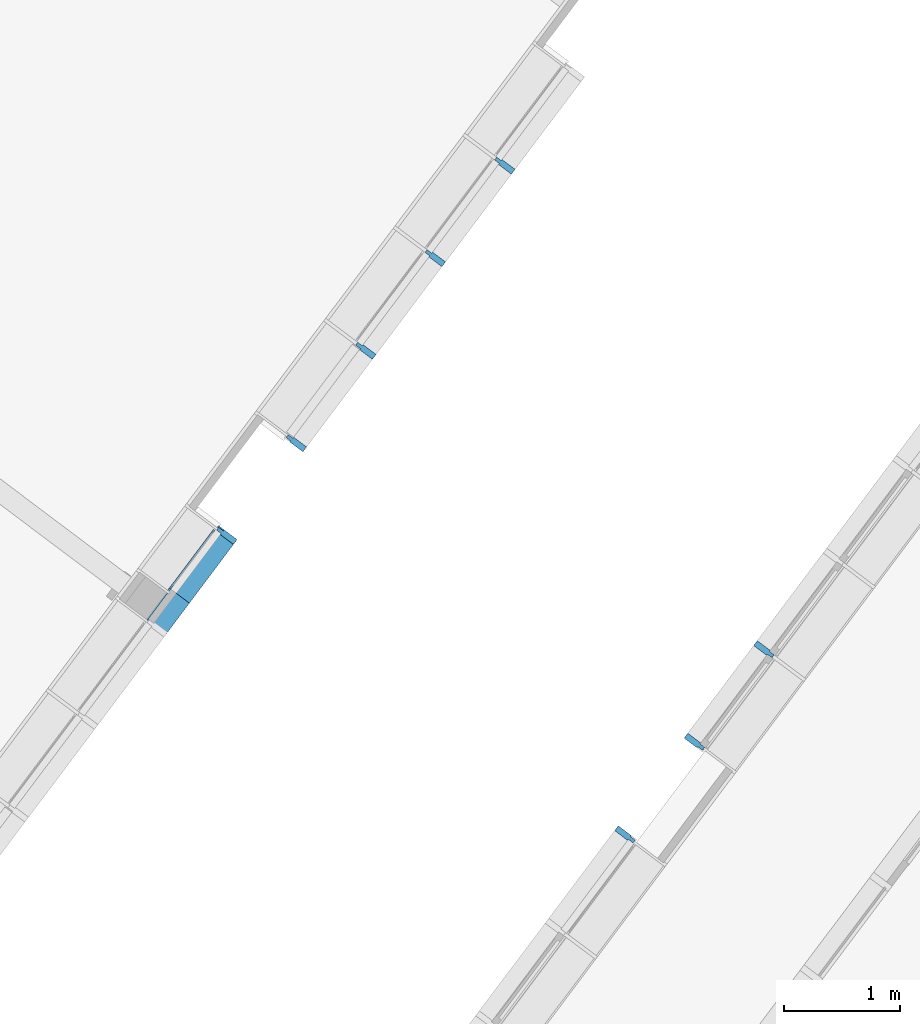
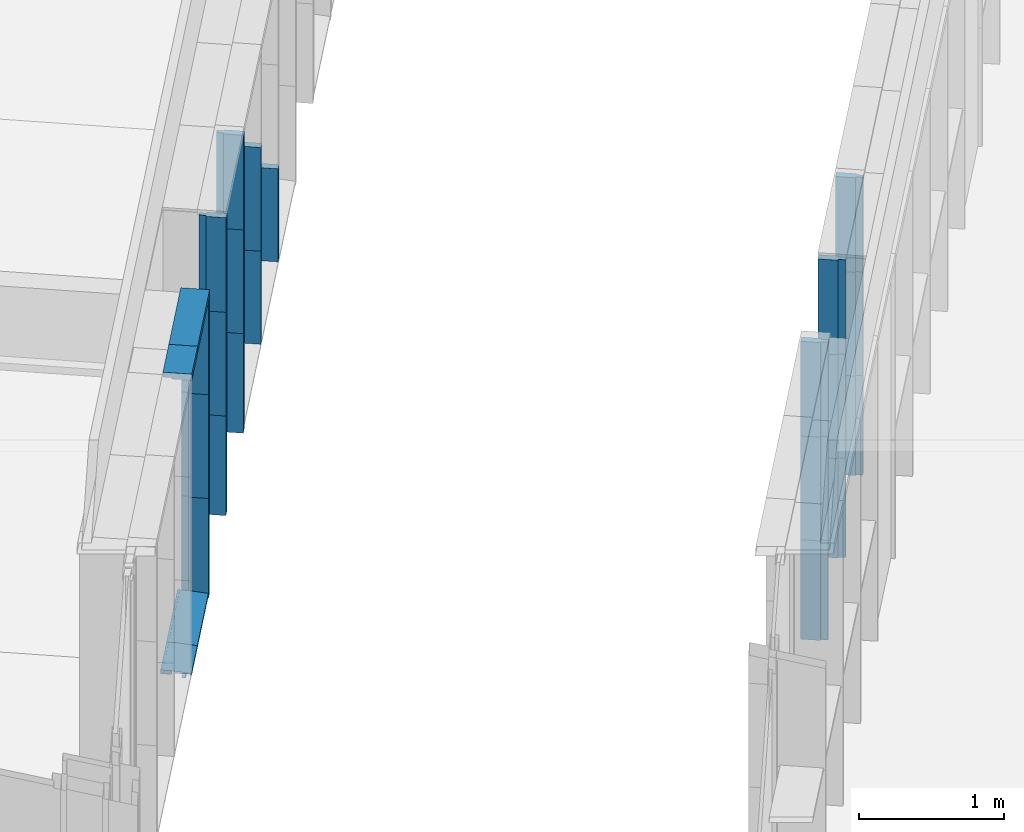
# One storey, part 95 of 243: 25 members, 2 elements without a shape of their own.
"""IFC2X3 building model written with IfcOpenShell, lengths in metres."""

from ifc_helpers import new_model, entity, si_unit, converted_unit, derived_unit, direction, frame, frame_2d, origin, place, context, subcontext, project, spatial, polyline, circle_curve, parameter, trimmed, segment, composite_curve, outline, extrude, source, transform, mapped, material, type_object, type_shapes, element, aggregate, save


model = new_model("IFC2X3")

# Units and contexts
model_context = context("Model", 3, precision=1e-05, world=origin(), true_north=direction((6.123031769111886e-17, 1.0)))
body_context = subcontext(model_context, "Body", "Model", "MODEL_VIEW")
ifc_project = project(units=[si_unit("LENGTHUNIT", "METRE"), si_unit("AREAUNIT", "SQUARE_METRE"), si_unit("VOLUMEUNIT", "CUBIC_METRE"), converted_unit("PLANEANGLEUNIT", "DEGREE", entity("IfcRatioMeasure", 0.017453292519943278), si_unit("PLANEANGLEUNIT", "RADIAN"), dimensions=[0, 0, 0, 0, 0, 0, 0]), si_unit("MASSUNIT", "GRAM", prefix="KILO"), derived_unit("MASSDENSITYUNIT", [(si_unit("MASSUNIT", "GRAM", prefix="KILO"), 1), (si_unit("LENGTHUNIT", "METRE"), -3)]), derived_unit("IONCONCENTRATIONUNIT", [(si_unit("MASSUNIT", "GRAM", prefix="KILO"), 1), (si_unit("LENGTHUNIT", "METRE"), -3)]), derived_unit("MOMENTOFINERTIAUNIT", [(si_unit("LENGTHUNIT", "METRE"), 4)]), si_unit("TIMEUNIT", "SECOND"), si_unit("FREQUENCYUNIT", "HERTZ"), si_unit("THERMODYNAMICTEMPERATUREUNIT", "DEGREE_CELSIUS"), derived_unit("THERMALTRANSMITTANCEUNIT", [(si_unit("MASSUNIT", "GRAM", prefix="KILO"), 1), (si_unit("THERMODYNAMICTEMPERATUREUNIT", "KELVIN"), -1), (si_unit("TIMEUNIT", "SECOND"), -3)]), derived_unit("THERMALCONDUCTANCEUNIT", [(si_unit("MASSUNIT", "GRAM", prefix="KILO"), 1), (si_unit("THERMODYNAMICTEMPERATUREUNIT", "KELVIN"), -1), (si_unit("TIMEUNIT", "SECOND"), -3), (si_unit("LENGTHUNIT", "METRE"), 1)]), derived_unit("VOLUMETRICFLOWRATEUNIT", [(si_unit("LENGTHUNIT", "METRE"), 3), (si_unit("TIMEUNIT", "SECOND"), -1)]), derived_unit("MASSFLOWRATEUNIT", [(si_unit("MASSUNIT", "GRAM", prefix="KILO"), 1), (si_unit("TIMEUNIT", "SECOND"), -1)]), derived_unit("ROTATIONALFREQUENCYUNIT", [(si_unit("TIMEUNIT", "SECOND"), -1)]), si_unit("ELECTRICCURRENTUNIT", "AMPERE"), si_unit("ELECTRICVOLTAGEUNIT", "VOLT"), si_unit("POWERUNIT", "WATT"), si_unit("FORCEUNIT", "NEWTON", prefix="KILO"), si_unit("ILLUMINANCEUNIT", "LUX"), si_unit("LUMINOUSFLUXUNIT", "LUMEN"), si_unit("LUMINOUSINTENSITYUNIT", "CANDELA"), derived_unit("USERDEFINED", [(si_unit("MASSUNIT", "GRAM", prefix="KILO"), -1), (si_unit("LENGTHUNIT", "METRE"), -2), (si_unit("TIMEUNIT", "SECOND"), 3), (si_unit("LUMINOUSFLUXUNIT", "LUMEN"), 1)]), derived_unit("USERDEFINED", [(si_unit("MASSUNIT", "GRAM", prefix="KILO"), 1), (si_unit("TIMEUNIT", "SECOND"), -3), (si_unit("LENGTHUNIT", "METRE"), 3), (si_unit("ELECTRICCURRENTUNIT", "AMPERE"), -2)]), derived_unit("SOUNDPOWERUNIT", [(si_unit("MASSUNIT", "GRAM", prefix="KILO"), 1), (si_unit("TIMEUNIT", "SECOND"), -3), (si_unit("LENGTHUNIT", "METRE"), 2)]), derived_unit("SOUNDPRESSUREUNIT", [(si_unit("MASSUNIT", "GRAM", prefix="KILO"), 1), (si_unit("LENGTHUNIT", "METRE"), -1), (si_unit("TIMEUNIT", "SECOND"), -2)]), derived_unit("LINEARVELOCITYUNIT", [(si_unit("LENGTHUNIT", "METRE"), 1), (si_unit("TIMEUNIT", "SECOND"), -1)]), si_unit("PRESSUREUNIT", "PASCAL"), derived_unit("USERDEFINED", [(si_unit("MASSUNIT", "GRAM", prefix="KILO"), 1), (si_unit("LENGTHUNIT", "METRE"), -2), (si_unit("TIMEUNIT", "SECOND"), -2)]), derived_unit("LINEARFORCEUNIT", [(si_unit("MASSUNIT", "GRAM", prefix="KILO"), 1), (si_unit("TIMEUNIT", "SECOND"), -2)]), derived_unit("PLANARFORCEUNIT", [(si_unit("MASSUNIT", "GRAM", prefix="KILO"), 1), (si_unit("LENGTHUNIT", "METRE"), -1), (si_unit("TIMEUNIT", "SECOND"), -2)]), derived_unit("SPECIFICHEATCAPACITYUNIT", [(si_unit("THERMODYNAMICTEMPERATUREUNIT", "KELVIN"), -1), (si_unit("LENGTHUNIT", "METRE"), 2), (si_unit("TIMEUNIT", "SECOND"), -2)]), derived_unit("HEATINGVALUEUNIT", [(si_unit("LENGTHUNIT", "METRE"), 2), (si_unit("TIMEUNIT", "SECOND"), -2)]), derived_unit("VAPORPERMEABILITYUNIT", [(si_unit("LENGTHUNIT", "METRE"), -1), (si_unit("TIMEUNIT", "SECOND"), 1)]), derived_unit("DYNAMICVISCOSITYUNIT", [(si_unit("MASSUNIT", "GRAM", prefix="KILO"), 1), (si_unit("TIMEUNIT", "SECOND"), -1), (si_unit("LENGTHUNIT", "METRE"), -1)]), derived_unit("THERMALEXPANSIONCOEFFICIENTUNIT", [(si_unit("THERMODYNAMICTEMPERATUREUNIT", "KELVIN"), -1)]), derived_unit("MODULUSOFELASTICITYUNIT", [(si_unit("MASSUNIT", "GRAM", prefix="KILO"), 1), (si_unit("LENGTHUNIT", "METRE"), -1), (si_unit("TIMEUNIT", "SECOND"), -2)]), derived_unit("ISOTHERMALMOISTURECAPACITYUNIT", [(si_unit("LENGTHUNIT", "METRE"), 3), (si_unit("MASSUNIT", "GRAM", prefix="KILO"), -1)]), derived_unit("MOISTUREDIFFUSIVITYUNIT", [(si_unit("TIMEUNIT", "SECOND"), -1), (si_unit("LENGTHUNIT", "METRE"), 2)])], contexts=[model_context])

# Site, building, storey
site_placement = place(None, frame((0.0, 0.0, 235.0), z_axis=(0.0, 0.0, 1.0), x_axis=(-0.7996477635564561, 0.6004693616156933, 0.0)))
site = spatial("IfcSite", under=ifc_project, at=site_placement, Name="Default", CompositionType="ELEMENT")
building_placement = place(site_placement, origin())
building = spatial("IfcBuilding", under=site, at=building_placement, CompositionType="ELEMENT")
storey_placement = place(building_placement, origin())
storey = spatial("IfcBuildingStorey", under=building, at=storey_placement, Name="P0- Escola", CompositionType="ELEMENT", Elevation=0.0)

# Curtain wall, members
curtain_wall_type_1 = type_object("IfcCurtainWallType", Name="Muro cortina:MC- EXT- MC2", PredefinedType="NOTDEFINED")
curtain_wall_1_placement = place(storey_placement, origin())
curtain_wall_1 = element("IfcCurtainWall", 1, at=curtain_wall_1_placement, inside=storey, type_object=curtain_wall_type_1, Name="Muro cortina:MC- EXT- MC2", ObjectType="Muro cortina:MC- EXT- MC2")
ifc_material = material(Name="_Alumini- T1- Perfil")
member_type_1 = type_object("IfcMemberType", Name="Montante rectangular:MC- Alu- 140x52,5 cm- Fa patis- Centre", PredefinedType="MULLION", material=ifc_material)
shared_shape_1 = source(origin(), body_context, "Body", "SweptSolid", [
    extrude(outline(polyline([(-0.11699999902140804, -0.026250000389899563), (0.021999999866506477, -0.026250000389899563), (0.021999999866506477, -0.01500000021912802), (0.07299999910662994, -0.01500000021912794), (0.07299999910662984, 0.015000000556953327), (0.02200000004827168, 0.015000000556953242), (0.02200000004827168, 0.026250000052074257), (-0.11699999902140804, 0.026250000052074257), (-0.11699999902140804, -0.026250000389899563)])), frame((0.0, 0.022999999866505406, -0.8400000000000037), z_axis=(0.0, 0.0, 1.0), x_axis=(0.0, -1.0, 0.0)), (0.0, 0.0, 1.0), 0.8400000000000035),
])
type_shapes(member_type_1, [shared_shape_1])
member_1_placement = place(curtain_wall_1_placement, frame((53.74514768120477, -24.41519175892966, -0.02), z_axis=(0.0, 0.0, -1.0), x_axis=(0.0, -1.0, 0.0)))
member_1 = element("IfcMember", 2, at=member_1_placement, type_object=member_type_1, material=ifc_material, Name="Montante rectangular:MC- Alu- 140x52,5 cm- Fa patis- Centre", ObjectType="Montante rectangular:MC- Alu- 140x52,5 cm- Fa patis- Centre", context=body_context, shape_type="MappedRepresentation", body=[
    mapped(shared_shape_1, transform((0.0, 0.0, 0.0), scale=1.0)),
])
member_2_placement = place(curtain_wall_1_placement, frame((53.74514768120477, -26.415191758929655, -0.02), z_axis=(0.0, 0.0, -1.0), x_axis=(0.0, -1.0, 0.0)))
member_2 = element("IfcMember", 3, at=member_2_placement, type_object=member_type_1, material=ifc_material, Name="Montante rectangular:MC- Alu- 140x52,5 cm- Fa patis- Centre", ObjectType="Montante rectangular:MC- Alu- 140x52,5 cm- Fa patis- Centre", context=body_context, shape_type="MappedRepresentation", body=[
    mapped(shared_shape_1, transform((0.0, 0.0, 0.0), scale=1.0)),
])
member_3_placement = place(curtain_wall_1_placement, frame((53.74514768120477, -25.415191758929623, -0.02), z_axis=(0.0, 0.0, -1.0), x_axis=(0.0, -1.0, 0.0)))
member_3 = element("IfcMember", 4, at=member_3_placement, type_object=member_type_1, material=ifc_material, Name="Montante rectangular:MC- Alu- 140x52,5 cm- Fa patis- Centre", ObjectType="Montante rectangular:MC- Alu- 140x52,5 cm- Fa patis- Centre", context=body_context, shape_type="MappedRepresentation", body=[
    mapped(shared_shape_1, transform((0.0, 0.0, 0.0), scale=1.0)),
])
member_type_2 = type_object("IfcMemberType", Name="Montante rectangular:MC- Alu- 140x52,5 cm- Fa patis- Centre", PredefinedType="MULLION", material=ifc_material)
shared_shape_2 = source(origin(), body_context, "Body", "SweptSolid", [
    extrude(outline(polyline([(-0.11699999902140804, -0.026250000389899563), (0.021999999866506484, -0.026250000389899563), (0.021999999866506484, -0.01500000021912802), (0.07299999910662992, -0.01500000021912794), (0.07299999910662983, 0.015000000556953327), (0.022000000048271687, 0.015000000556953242), (0.022000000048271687, 0.026250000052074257), (-0.11699999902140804, 0.026250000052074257), (-0.11699999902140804, -0.026250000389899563)])), frame((0.0, 0.022999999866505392, -0.7850000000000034), z_axis=(0.0, 0.0, 1.0), x_axis=(0.0, -1.0, 0.0)), (0.0, 0.0, 1.0), 0.7850000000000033),
])
type_shapes(member_type_2, [shared_shape_2])
member_4_placement = place(curtain_wall_1_placement, frame((53.74514768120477, -27.41519175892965, 0.035000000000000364), z_axis=(0.0, 0.0, -1.0), x_axis=(0.0, -1.0, 0.0)))
member_4 = element("IfcMember", 5, at=member_4_placement, type_object=member_type_2, material=ifc_material, Name="Montante rectangular:MC- Alu- 140x52,5 cm- Fa patis- Centre", ObjectType="Montante rectangular:MC- Alu- 140x52,5 cm- Fa patis- Centre", context=body_context, shape_type="MappedRepresentation", body=[
    mapped(shared_shape_2, transform((0.0, 0.0, 0.0), scale=1.0)),
])
member_5_placement = place(curtain_wall_1_placement, frame((53.74514768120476, -28.415191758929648, 0.035000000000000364), z_axis=(0.0, 0.0, -1.0), x_axis=(0.0, -1.0, 0.0)))
member_5 = element("IfcMember", 6, at=member_5_placement, type_object=member_type_2, material=ifc_material, Name="Montante rectangular:MC- Alu- 140x52,5 cm- Fa patis- Centre", ObjectType="Montante rectangular:MC- Alu- 140x52,5 cm- Fa patis- Centre", context=body_context, shape_type="MappedRepresentation", body=[
    mapped(shared_shape_2, transform((0.0, 0.0, 0.0), scale=1.0)),
])
member_type_3 = type_object("IfcMemberType", Name="Montante rectangular:MC- Alu- 140x52,5 cm- Fa patis- Centre", PredefinedType="MULLION", material=ifc_material)
shared_shape_3 = source(origin(), body_context, "Body", "SweptSolid", [
    extrude(outline(polyline([(-0.11699999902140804, -0.026250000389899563), (0.021999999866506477, -0.026250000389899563), (0.021999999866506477, -0.01500000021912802), (0.07299999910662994, -0.01500000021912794), (0.07299999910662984, 0.015000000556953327), (0.02200000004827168, 0.015000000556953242), (0.02200000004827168, 0.026250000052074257), (-0.11699999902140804, 0.026250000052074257), (-0.11699999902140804, -0.026250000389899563)])), frame((0.0, 0.022999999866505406, -0.8750000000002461), z_axis=(0.0, 0.0, 1.0), x_axis=(0.0, -1.0, 0.0)), (0.0, 0.0, 1.0), 0.8750000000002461),
])
type_shapes(member_type_3, [shared_shape_3])
member_6_placement = place(curtain_wall_1_placement, frame((53.74514768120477, -24.41519175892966, 0.8200000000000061), z_axis=(0.0, 0.0, -1.0), x_axis=(0.0, -1.0, 0.0)))
member_6 = element("IfcMember", 7, at=member_6_placement, type_object=member_type_3, material=ifc_material, Name="Montante rectangular:MC- Alu- 140x52,5 cm- Fa patis- Centre", ObjectType="Montante rectangular:MC- Alu- 140x52,5 cm- Fa patis- Centre", context=body_context, shape_type="MappedRepresentation", body=[
    mapped(shared_shape_3, transform((0.0, 0.0, 0.0), scale=1.0)),
])
member_7_placement = place(curtain_wall_1_placement, frame((53.74514768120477, -25.415191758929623, 0.8200000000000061), z_axis=(0.0, 0.0, -1.0), x_axis=(0.0, -1.0, 0.0)))
member_7 = element("IfcMember", 8, at=member_7_placement, type_object=member_type_3, material=ifc_material, Name="Montante rectangular:MC- Alu- 140x52,5 cm- Fa patis- Centre", ObjectType="Montante rectangular:MC- Alu- 140x52,5 cm- Fa patis- Centre", context=body_context, shape_type="MappedRepresentation", body=[
    mapped(shared_shape_3, transform((0.0, 0.0, 0.0), scale=1.0)),
])
member_8_placement = place(curtain_wall_1_placement, frame((53.74514768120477, -26.415191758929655, 0.8200000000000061), z_axis=(0.0, 0.0, -1.0), x_axis=(0.0, -1.0, 0.0)))
member_8 = element("IfcMember", 9, at=member_8_placement, type_object=member_type_3, material=ifc_material, Name="Montante rectangular:MC- Alu- 140x52,5 cm- Fa patis- Centre", ObjectType="Montante rectangular:MC- Alu- 140x52,5 cm- Fa patis- Centre", context=body_context, shape_type="MappedRepresentation", body=[
    mapped(shared_shape_3, transform((0.0, 0.0, 0.0), scale=1.0)),
])
member_9_placement = place(curtain_wall_1_placement, frame((53.74514768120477, -27.41519175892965, 0.8200000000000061), z_axis=(0.0, 0.0, -1.0), x_axis=(0.0, -1.0, 0.0)))
member_9 = element("IfcMember", 10, at=member_9_placement, type_object=member_type_3, material=ifc_material, Name="Montante rectangular:MC- Alu- 140x52,5 cm- Fa patis- Centre", ObjectType="Montante rectangular:MC- Alu- 140x52,5 cm- Fa patis- Centre", context=body_context, shape_type="MappedRepresentation", body=[
    mapped(shared_shape_3, transform((0.0, 0.0, 0.0), scale=1.0)),
])
member_type_4 = type_object("IfcMemberType", Name="Montante rectangular:MC- Alu- 140x52,5 cm- Fa patis- inferior", PredefinedType="MULLION", material=ifc_material)
shared_shape_4 = source(origin(), body_context, "Body", "SweptSolid", [
    extrude(outline(composite_curve([segment(polyline([(0.1278672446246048, -0.025867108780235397), (0.14416724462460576, -0.0258671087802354)]), True, "CONTINUOUS"), segment(polyline([(0.14416724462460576, -0.0258671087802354), (0.1441672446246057, 0.009132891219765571)]), True, "CONTINUOUS"), segment(polyline([(0.1441672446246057, 0.009132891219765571), (0.06786724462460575, 0.009132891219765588)]), True, "CONTINUOUS"), segment(polyline([(0.06786724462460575, 0.009132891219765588), (0.06786724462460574, -0.021159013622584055)]), True, "CONTINUOUS"), segment(polyline([(0.06786724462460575, -0.021159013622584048), (-0.030132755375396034, -0.012332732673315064)]), True, "CONTINUOUS"), segment(polyline([(-0.03013275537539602, -0.012332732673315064), (-0.030132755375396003, 0.027132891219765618)]), True, "CONTINUOUS"), segment(polyline([(-0.030132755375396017, 0.027132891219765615), (-0.0021327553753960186, 0.027132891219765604)]), True, "CONTINUOUS"), segment(polyline([(-0.0021327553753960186, 0.027132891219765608), (-0.0021327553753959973, 0.0291328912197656)]), True, "CONTINUOUS"), segment(polyline([(-0.0021327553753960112, 0.0291328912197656), (-0.032132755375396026, 0.02913289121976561)]), True, "CONTINUOUS"), segment(polyline([(-0.032132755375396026, 0.02913289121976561), (-0.03213275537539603, -0.012152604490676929)]), True, "CONTINUOUS"), segment(polyline([(-0.03213275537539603, -0.012152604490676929), (-0.0701327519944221, -0.008730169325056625)]), True, "CONTINUOUS"), segment(polyline([(-0.0701327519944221, -0.008730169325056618), (-0.0701327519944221, 0.0057663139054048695)]), True, "CONTINUOUS"), segment(trimmed(circle_curve(frame_2d((-0.0696327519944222, 0.005766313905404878), x_axis=(-1.0, 0.0)), 0.0004999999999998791), [parameter(269.999999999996)], [parameter(0.0)], True, "PARAMETER"), False, "CONTINUOUS"), segment(polyline([(-0.0696327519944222, 0.006266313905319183), (-0.06213275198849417, 0.00626631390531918)]), True, "CONTINUOUS"), segment(polyline([(-0.06213275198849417, 0.00626631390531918), (-0.06213275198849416, 0.008266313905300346)]), True, "CONTINUOUS"), segment(polyline([(-0.06213275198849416, 0.008266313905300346), (-0.07013275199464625, 0.008266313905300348)]), True, "CONTINUOUS"), segment(trimmed(circle_curve(frame_2d((-0.07013275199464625, 0.0062663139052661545), x_axis=(0.0, 1.0)), 0.0020000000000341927), [parameter(0.0)], [parameter(90.00000002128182)], True, "PARAMETER"), True, "CONTINUOUS"), segment(polyline([(-0.07213275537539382, 0.006266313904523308), (-0.07213275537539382, -0.008730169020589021)]), True, "CONTINUOUS"), segment(trimmed(circle_curve(frame_2d((-0.07013275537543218, -0.008730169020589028), x_axis=(-1.0, 0.0)), 0.001999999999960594), [parameter(0.0)], [parameter(84.85359280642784)], True, "PARAMETER"), True, "CONTINUOUS"), segment(polyline([(-0.07031215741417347, -0.010722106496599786), (0.06786724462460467, -0.02316710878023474)]), True, "CONTINUOUS"), segment(polyline([(0.06786724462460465, -0.023167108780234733), (0.12786724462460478, -0.02316710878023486)]), True, "CONTINUOUS"), segment(polyline([(0.12786724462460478, -0.02316710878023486), (0.1278672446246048, -0.025867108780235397)]), True, "CONTINUOUS")], self_intersect=False)), frame((-0.02913289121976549, 0.06786724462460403, -0.3391263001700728), z_axis=(0.0, 0.0, 1.0), x_axis=(0.0, -1.0, 0.0)), (0.0, 0.0, 1.0), 0.3391263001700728),
])
type_shapes(member_type_4, [shared_shape_4])
member_10_placement = place(curtain_wall_1_placement, frame((53.74514768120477, -23.41519175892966, -0.02), z_axis=(0.0, 1.0, 0.0), x_axis=(0.0, 0.0, -1.0)))
member_10 = element("IfcMember", 11, at=member_10_placement, type_object=member_type_4, material=ifc_material, Name="Montante rectangular:MC- Alu- 140x52,5 cm- Fa patis- inferior", ObjectType="Montante rectangular:MC- Alu- 140x52,5 cm- Fa patis- inferior", context=body_context, shape_type="MappedRepresentation", body=[
    mapped(shared_shape_4, transform((0.0, 0.0, 0.0), scale=1.0)),
])
member_type_5 = type_object("IfcMemberType", Name="Montante rectangular:MC- Alu- 140x52,5 cm- Fa patis- Superior", PredefinedType="MULLION", material=ifc_material)
shared_shape_5 = source(origin(), body_context, "Body", "SweptSolid", [
    extrude(outline(polyline([(-0.11366666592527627, -0.021249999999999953), (0.02633333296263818, -0.021249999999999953), (0.02633333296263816, -0.010000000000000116), (0.08733333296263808, -0.010000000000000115), (0.08733333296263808, 0.03125000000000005), (-0.11366666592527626, 0.031250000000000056), (-0.11366666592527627, -0.021249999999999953)])), frame((-0.031250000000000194, 0.027333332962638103, -0.6871237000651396), z_axis=(0.0, 0.0, 1.0), x_axis=(0.0, -1.0, 0.0)), (0.0, 0.0, 1.0), 0.6871237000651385),
])
type_shapes(member_type_5, [shared_shape_5])
member_11_placement = place(curtain_wall_1_placement, frame((53.74514768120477, -24.441441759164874, 2.545), z_axis=(0.0, -1.0, 0.0), x_axis=(0.0, 0.0, 1.0)))
member_11 = element("IfcMember", 12, at=member_11_placement, type_object=member_type_5, material=ifc_material, Name="Montante rectangular:MC- Alu- 140x52,5 cm- Fa patis- Superior", ObjectType="Montante rectangular:MC- Alu- 140x52,5 cm- Fa patis- Superior", context=body_context, shape_type="MappedRepresentation", body=[
    mapped(shared_shape_5, transform((0.0, 0.0, 0.0), scale=1.0)),
])
member_type_6 = type_object("IfcMemberType", Name="Montante rectangular:MC- Alu- 140x52,5 cm- Fa patis- Superior", PredefinedType="MULLION", material=ifc_material)
shared_shape_6 = source(origin(), body_context, "Body", "SweptSolid", [
    extrude(outline(polyline([(-0.11366666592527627, -0.021249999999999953), (0.02633333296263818, -0.021249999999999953), (0.02633333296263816, -0.010000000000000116), (0.08733333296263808, -0.010000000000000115), (0.08733333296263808, 0.03125000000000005), (-0.11366666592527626, 0.031250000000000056), (-0.11366666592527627, -0.021249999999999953)])), frame((-0.031250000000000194, 0.027333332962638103, -0.3391263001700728), z_axis=(0.0, 0.0, 1.0), x_axis=(0.0, -1.0, 0.0)), (0.0, 0.0, 1.0), 0.3391263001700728),
])
type_shapes(member_type_6, [shared_shape_6])
member_12_placement = place(curtain_wall_1_placement, frame((53.74514768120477, -23.754318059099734, 2.545), z_axis=(0.0, -1.0, 0.0), x_axis=(0.0, 0.0, 1.0)))
member_12 = element("IfcMember", 13, at=member_12_placement, type_object=member_type_6, material=ifc_material, Name="Montante rectangular:MC- Alu- 140x52,5 cm- Fa patis- Superior", ObjectType="Montante rectangular:MC- Alu- 140x52,5 cm- Fa patis- Superior", context=body_context, shape_type="MappedRepresentation", body=[
    mapped(shared_shape_6, transform((0.0, 0.0, 0.0), scale=1.0)),
])
member_type_7 = type_object("IfcMemberType", Name="Montante rectangular:MC- Alu- 140x52,5 cm- Fa patis- inferior", PredefinedType="MULLION", material=ifc_material)
shared_shape_7 = source(origin(), body_context, "Body", "SweptSolid", [
    extrude(outline(composite_curve([segment(polyline([(0.1278672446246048, -0.02586710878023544), (0.14416724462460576, -0.025867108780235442)]), True, "CONTINUOUS"), segment(polyline([(0.14416724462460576, -0.025867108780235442), (0.1441672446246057, 0.00913289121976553)]), True, "CONTINUOUS"), segment(polyline([(0.1441672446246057, 0.00913289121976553), (0.06786724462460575, 0.009132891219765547)]), True, "CONTINUOUS"), segment(polyline([(0.06786724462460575, 0.009132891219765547), (0.06786724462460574, -0.021159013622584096)]), True, "CONTINUOUS"), segment(polyline([(0.06786724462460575, -0.02115901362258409), (-0.030132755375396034, -0.012332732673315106)]), True, "CONTINUOUS"), segment(polyline([(-0.03013275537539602, -0.012332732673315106), (-0.030132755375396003, 0.027132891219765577)]), True, "CONTINUOUS"), segment(polyline([(-0.030132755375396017, 0.027132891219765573), (-0.0021327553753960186, 0.027132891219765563)]), True, "CONTINUOUS"), segment(polyline([(-0.0021327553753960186, 0.027132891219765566), (-0.0021327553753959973, 0.029132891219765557)]), True, "CONTINUOUS"), segment(polyline([(-0.0021327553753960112, 0.029132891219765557), (-0.032132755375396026, 0.029132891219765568)]), True, "CONTINUOUS"), segment(polyline([(-0.032132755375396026, 0.029132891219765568), (-0.03213275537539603, -0.01215260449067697)]), True, "CONTINUOUS"), segment(polyline([(-0.03213275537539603, -0.01215260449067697), (-0.0701327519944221, -0.008730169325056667)]), True, "CONTINUOUS"), segment(polyline([(-0.0701327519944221, -0.00873016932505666), (-0.0701327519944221, 0.005766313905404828)]), True, "CONTINUOUS"), segment(trimmed(circle_curve(frame_2d((-0.0696327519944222, 0.0057663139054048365), x_axis=(-1.0, 0.0)), 0.0004999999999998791), [parameter(269.999999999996)], [parameter(0.0)], True, "PARAMETER"), False, "CONTINUOUS"), segment(polyline([(-0.0696327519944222, 0.006266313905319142), (-0.06213275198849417, 0.006266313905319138)]), True, "CONTINUOUS"), segment(polyline([(-0.06213275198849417, 0.006266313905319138), (-0.06213275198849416, 0.008266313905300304)]), True, "CONTINUOUS"), segment(polyline([(-0.06213275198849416, 0.008266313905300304), (-0.07013275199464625, 0.008266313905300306)]), True, "CONTINUOUS"), segment(trimmed(circle_curve(frame_2d((-0.07013275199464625, 0.006266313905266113), x_axis=(0.0, 1.0)), 0.0020000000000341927), [parameter(0.0)], [parameter(90.00000002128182)], True, "PARAMETER"), True, "CONTINUOUS"), segment(polyline([(-0.07213275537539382, 0.006266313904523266), (-0.07213275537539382, -0.008730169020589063)]), True, "CONTINUOUS"), segment(trimmed(circle_curve(frame_2d((-0.07013275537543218, -0.008730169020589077), x_axis=(-1.0, 0.0)), 0.001999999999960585), [parameter(0.0)], [parameter(84.85359280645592)], True, "PARAMETER"), True, "CONTINUOUS"), segment(polyline([(-0.07031215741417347, -0.010722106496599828), (0.06786724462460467, -0.023167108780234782)]), True, "CONTINUOUS"), segment(polyline([(0.06786724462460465, -0.023167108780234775), (0.12786724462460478, -0.023167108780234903)]), True, "CONTINUOUS"), segment(polyline([(0.12786724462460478, -0.023167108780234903), (0.1278672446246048, -0.02586710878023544)]), True, "CONTINUOUS")], self_intersect=False)), frame((-0.02913289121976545, 0.06786724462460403, -0.6346236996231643), z_axis=(0.0, 0.0, 1.0), x_axis=(0.0, -1.0, 0.0)), (0.0, 0.0, 1.0), 0.6346236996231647),
])
type_shapes(member_type_7, [shared_shape_7])
member_13_placement = place(curtain_wall_1_placement, frame((53.74514768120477, -23.754318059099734, -0.02), z_axis=(0.0, 1.0, 0.0), x_axis=(0.0, 0.0, -1.0)))
member_13 = element("IfcMember", 14, at=member_13_placement, type_object=member_type_7, material=ifc_material, Name="Montante rectangular:MC- Alu- 140x52,5 cm- Fa patis- inferior", ObjectType="Montante rectangular:MC- Alu- 140x52,5 cm- Fa patis- inferior", context=body_context, shape_type="MappedRepresentation", body=[
    mapped(shared_shape_7, transform((0.0, 0.0, 0.0), scale=1.0)),
])
member_type_8 = type_object("IfcMemberType", Name="Montante rectangular:MC- Alu- 140x52,5 cm- Fa patis- Centre", PredefinedType="MULLION", material=ifc_material)
shared_shape_8 = source(origin(), body_context, "Body", "SweptSolid", [
    extrude(outline(polyline([(-0.11699999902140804, -0.026250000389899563), (0.021999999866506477, -0.026250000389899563), (0.021999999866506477, -0.01500000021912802), (0.07299999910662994, -0.01500000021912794), (0.07299999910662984, 0.015000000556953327), (0.02200000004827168, 0.015000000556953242), (0.02200000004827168, 0.026250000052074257), (-0.11699999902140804, 0.026250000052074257), (-0.11699999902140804, -0.026250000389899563)])), frame((0.0, 0.022999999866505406, -0.79749999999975), z_axis=(0.0, 0.0, 1.0), x_axis=(0.0, -1.0, 0.0)), (0.0, 0.0, 1.0), 0.79749999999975),
])
type_shapes(member_type_8, [shared_shape_8])
member_14_placement = place(curtain_wall_1_placement, frame((53.74514768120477, -24.41519175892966, 1.6950000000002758), z_axis=(0.0, 0.0, -1.0), x_axis=(0.0, -1.0, 0.0)))
member_14 = element("IfcMember", 15, at=member_14_placement, type_object=member_type_8, material=ifc_material, Name="Montante rectangular:MC- Alu- 140x52,5 cm- Fa patis- Centre", ObjectType="Montante rectangular:MC- Alu- 140x52,5 cm- Fa patis- Centre", context=body_context, shape_type="MappedRepresentation", body=[
    mapped(shared_shape_8, transform((0.0, 0.0, 0.0), scale=1.0)),
])
member_15_placement = place(curtain_wall_1_placement, frame((53.74514768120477, -25.415191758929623, 1.6950000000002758), z_axis=(0.0, 0.0, -1.0), x_axis=(0.0, -1.0, 0.0)))
member_15 = element("IfcMember", 16, at=member_15_placement, type_object=member_type_8, material=ifc_material, Name="Montante rectangular:MC- Alu- 140x52,5 cm- Fa patis- Centre", ObjectType="Montante rectangular:MC- Alu- 140x52,5 cm- Fa patis- Centre", context=body_context, shape_type="MappedRepresentation", body=[
    mapped(shared_shape_8, transform((0.0, 0.0, 0.0), scale=1.0)),
])
member_16_placement = place(curtain_wall_1_placement, frame((53.74514768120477, -26.415191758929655, 1.6950000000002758), z_axis=(0.0, 0.0, -1.0), x_axis=(0.0, -1.0, 0.0)))
member_16 = element("IfcMember", 17, at=member_16_placement, type_object=member_type_8, material=ifc_material, Name="Montante rectangular:MC- Alu- 140x52,5 cm- Fa patis- Centre", ObjectType="Montante rectangular:MC- Alu- 140x52,5 cm- Fa patis- Centre", context=body_context, shape_type="MappedRepresentation", body=[
    mapped(shared_shape_8, transform((0.0, 0.0, 0.0), scale=1.0)),
])
aggregate(curtain_wall_1, [member_10, member_11, member_1, member_2, member_4, member_5, member_3, member_12, member_13, member_6, member_7, member_8, member_9, member_14, member_15, member_16])

curtain_wall_type_2 = type_object("IfcCurtainWallType", Name="Muro cortina:MC- EXT- MC5", PredefinedType="NOTDEFINED")
curtain_wall_2_placement = place(storey_placement, origin())
curtain_wall_2 = element("IfcCurtainWall", 18, at=curtain_wall_2_placement, inside=storey, type_object=curtain_wall_type_2, Name="Muro cortina:MC- EXT- MC5", ObjectType="Muro cortina:MC- EXT- MC5")
member_type_9 = type_object("IfcMemberType", Name="Montante rectangular:MC- Alu- 140x52,5 cm- Fa patis- Centre", PredefinedType="MULLION", material=ifc_material)
shared_shape_9 = source(origin(), body_context, "Body", "SweptSolid", [
    extrude(outline(polyline([(-0.021999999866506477, -0.026250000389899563), (0.11699999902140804, -0.026250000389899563), (0.11699999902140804, 0.026250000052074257), (-0.02200000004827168, 0.026250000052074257), (-0.02200000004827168, 0.015000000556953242), (-0.07299999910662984, 0.015000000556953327), (-0.07299999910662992, -0.01500000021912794), (-0.021999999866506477, -0.01500000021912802), (-0.021999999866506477, -0.026250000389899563)])), frame((0.0, -0.022999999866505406, -0.8400000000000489), z_axis=(0.0, 0.0, 1.0), x_axis=(0.0, -1.0, 0.0)), (0.0, 0.0, 1.0), 0.8400000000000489),
])
type_shapes(member_type_9, [shared_shape_9])
member_17_placement = place(curtain_wall_2_placement, frame((49.345147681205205, -24.415191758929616, -0.02), z_axis=(0.0, 0.0, -1.0), x_axis=(0.0, -1.0, 0.0)))
member_17 = element("IfcMember", 19, at=member_17_placement, type_object=member_type_9, material=ifc_material, Name="Montante rectangular:MC- Alu- 140x52,5 cm- Fa patis- Centre", ObjectType="Montante rectangular:MC- Alu- 140x52,5 cm- Fa patis- Centre", context=body_context, shape_type="MappedRepresentation", body=[
    mapped(shared_shape_9, transform((0.0, 0.0, 0.0), scale=1.0)),
])
member_18_placement = place(curtain_wall_2_placement, frame((49.345147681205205, -26.41519175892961, -0.02), z_axis=(0.0, 0.0, -1.0), x_axis=(0.0, -1.0, 0.0)))
member_18 = element("IfcMember", 20, at=member_18_placement, type_object=member_type_9, material=ifc_material, Name="Montante rectangular:MC- Alu- 140x52,5 cm- Fa patis- Centre", ObjectType="Montante rectangular:MC- Alu- 140x52,5 cm- Fa patis- Centre", context=body_context, shape_type="MappedRepresentation", body=[
    mapped(shared_shape_9, transform((0.0, 0.0, 0.0), scale=1.0)),
])
member_19_placement = place(curtain_wall_2_placement, frame((49.345147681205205, -25.415191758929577, -0.02), z_axis=(0.0, 0.0, -1.0), x_axis=(0.0, -1.0, 0.0)))
member_19 = element("IfcMember", 21, at=member_19_placement, type_object=member_type_9, material=ifc_material, Name="Montante rectangular:MC- Alu- 140x52,5 cm- Fa patis- Centre", ObjectType="Montante rectangular:MC- Alu- 140x52,5 cm- Fa patis- Centre", context=body_context, shape_type="MappedRepresentation", body=[
    mapped(shared_shape_9, transform((0.0, 0.0, 0.0), scale=1.0)),
])
member_type_10 = type_object("IfcMemberType", Name="Montante rectangular:MC- Alu- 140x52,5 cm- Fa patis- Centre", PredefinedType="MULLION", material=ifc_material)
shared_shape_10 = source(origin(), body_context, "Body", "SweptSolid", [
    extrude(outline(polyline([(-0.021999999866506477, -0.026250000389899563), (0.11699999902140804, -0.026250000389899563), (0.11699999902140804, 0.026250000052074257), (-0.02200000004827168, 0.026250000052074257), (-0.02200000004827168, 0.015000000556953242), (-0.07299999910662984, 0.015000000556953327), (-0.07299999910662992, -0.01500000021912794), (-0.021999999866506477, -0.01500000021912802), (-0.021999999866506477, -0.026250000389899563)])), frame((0.0, -0.022999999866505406, -0.8750000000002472), z_axis=(0.0, 0.0, 1.0), x_axis=(0.0, -1.0, 0.0)), (0.0, 0.0, 1.0), 0.8750000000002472),
])
type_shapes(member_type_10, [shared_shape_10])
member_20_placement = place(curtain_wall_2_placement, frame((49.345147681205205, -24.415191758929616, 0.8200000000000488), z_axis=(0.0, 0.0, -1.0), x_axis=(0.0, -1.0, 0.0)))
member_20 = element("IfcMember", 22, at=member_20_placement, type_object=member_type_10, material=ifc_material, Name="Montante rectangular:MC- Alu- 140x52,5 cm- Fa patis- Centre", ObjectType="Montante rectangular:MC- Alu- 140x52,5 cm- Fa patis- Centre", context=body_context, shape_type="MappedRepresentation", body=[
    mapped(shared_shape_10, transform((0.0, 0.0, 0.0), scale=1.0)),
])
member_21_placement = place(curtain_wall_2_placement, frame((49.345147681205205, -25.415191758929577, 0.8200000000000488), z_axis=(0.0, 0.0, -1.0), x_axis=(0.0, -1.0, 0.0)))
member_21 = element("IfcMember", 23, at=member_21_placement, type_object=member_type_10, material=ifc_material, Name="Montante rectangular:MC- Alu- 140x52,5 cm- Fa patis- Centre", ObjectType="Montante rectangular:MC- Alu- 140x52,5 cm- Fa patis- Centre", context=body_context, shape_type="MappedRepresentation", body=[
    mapped(shared_shape_10, transform((0.0, 0.0, 0.0), scale=1.0)),
])
member_22_placement = place(curtain_wall_2_placement, frame((49.345147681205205, -26.41519175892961, 0.8200000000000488), z_axis=(0.0, 0.0, -1.0), x_axis=(0.0, -1.0, 0.0)))
member_22 = element("IfcMember", 24, at=member_22_placement, type_object=member_type_10, material=ifc_material, Name="Montante rectangular:MC- Alu- 140x52,5 cm- Fa patis- Centre", ObjectType="Montante rectangular:MC- Alu- 140x52,5 cm- Fa patis- Centre", context=body_context, shape_type="MappedRepresentation", body=[
    mapped(shared_shape_10, transform((0.0, 0.0, 0.0), scale=1.0)),
])
member_type_11 = type_object("IfcMemberType", Name="Montante rectangular:MC- Alu- 140x52,5 cm- Fa patis- Centre", PredefinedType="MULLION", material=ifc_material)
shared_shape_11 = source(origin(), body_context, "Body", "SweptSolid", [
    extrude(outline(polyline([(-0.021999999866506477, -0.026250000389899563), (0.11699999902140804, -0.026250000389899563), (0.11699999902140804, 0.026250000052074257), (-0.02200000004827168, 0.026250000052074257), (-0.02200000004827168, 0.015000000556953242), (-0.07299999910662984, 0.015000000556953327), (-0.07299999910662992, -0.01500000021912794), (-0.021999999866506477, -0.01500000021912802), (-0.021999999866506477, -0.026250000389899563)])), frame((0.0, -0.022999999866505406, -0.7974999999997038), z_axis=(0.0, 0.0, 1.0), x_axis=(0.0, -1.0, 0.0)), (0.0, 0.0, 1.0), 0.7974999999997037),
])
type_shapes(member_type_11, [shared_shape_11])
member_23_placement = place(curtain_wall_2_placement, frame((49.345147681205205, -24.415191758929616, 1.695000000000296), z_axis=(0.0, 0.0, -1.0), x_axis=(0.0, -1.0, 0.0)))
member_23 = element("IfcMember", 25, at=member_23_placement, type_object=member_type_11, material=ifc_material, Name="Montante rectangular:MC- Alu- 140x52,5 cm- Fa patis- Centre", ObjectType="Montante rectangular:MC- Alu- 140x52,5 cm- Fa patis- Centre", context=body_context, shape_type="MappedRepresentation", body=[
    mapped(shared_shape_11, transform((0.0, 0.0, 0.0), scale=1.0)),
])
member_24_placement = place(curtain_wall_2_placement, frame((49.345147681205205, -25.415191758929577, 1.695000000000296), z_axis=(0.0, 0.0, -1.0), x_axis=(0.0, -1.0, 0.0)))
member_24 = element("IfcMember", 26, at=member_24_placement, type_object=member_type_11, material=ifc_material, Name="Montante rectangular:MC- Alu- 140x52,5 cm- Fa patis- Centre", ObjectType="Montante rectangular:MC- Alu- 140x52,5 cm- Fa patis- Centre", context=body_context, shape_type="MappedRepresentation", body=[
    mapped(shared_shape_11, transform((0.0, 0.0, 0.0), scale=1.0)),
])
member_25_placement = place(curtain_wall_2_placement, frame((49.345147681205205, -26.41519175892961, 1.695000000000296), z_axis=(0.0, 0.0, -1.0), x_axis=(0.0, -1.0, 0.0)))
member_25 = element("IfcMember", 27, at=member_25_placement, type_object=member_type_11, material=ifc_material, Name="Montante rectangular:MC- Alu- 140x52,5 cm- Fa patis- Centre", ObjectType="Montante rectangular:MC- Alu- 140x52,5 cm- Fa patis- Centre", context=body_context, shape_type="MappedRepresentation", body=[
    mapped(shared_shape_11, transform((0.0, 0.0, 0.0), scale=1.0)),
])
aggregate(curtain_wall_2, [member_17, member_18, member_19, member_20, member_21, member_22, member_23, member_24, member_25])

save(model, "model.ifc")
